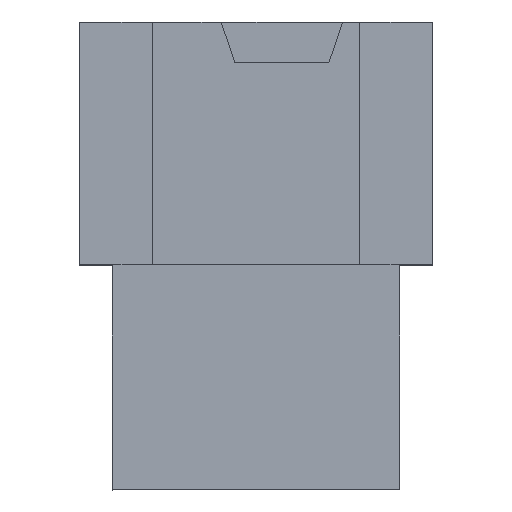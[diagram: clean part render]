
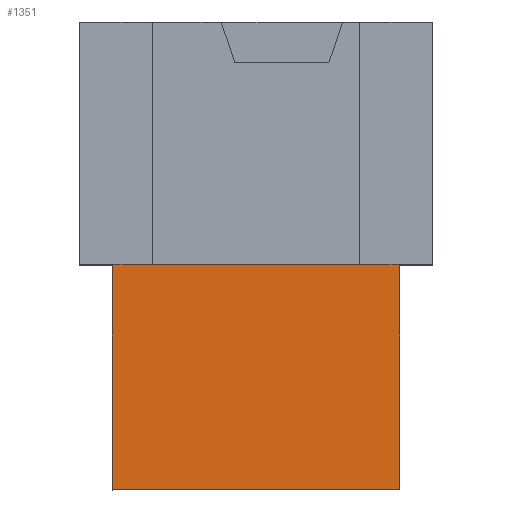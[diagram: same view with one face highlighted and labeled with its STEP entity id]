
A CAD part, top view. The second image highlights one B-rep face of the part: STEP entity #1351.
In plain terms, the highlighted planar face has unit normal (0, 0, 1).
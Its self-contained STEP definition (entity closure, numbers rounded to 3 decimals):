
#1338=AXIS2_PLACEMENT_3D('Plane Axis2P3D',#1335,#1336,#1337) ;
#566=CARTESIAN_POINT('Vertex',(10.55,-1.8,7.5)) ;
#580=CARTESIAN_POINT('Vertex',(-10.55,-1.8,7.5)) ;
#583=CARTESIAN_POINT('Line Origine',(0.,-1.8,7.5)) ;
#1261=CARTESIAN_POINT('Line Origine',(10.55,-10.05,7.5)) ;
#1265=CARTESIAN_POINT('Vertex',(10.55,-18.3,7.5)) ;
#1320=CARTESIAN_POINT('Vertex',(-10.55,-18.3,7.5)) ;
#1323=CARTESIAN_POINT('Line Origine',(-10.55,-10.05,7.5)) ;
#1335=CARTESIAN_POINT('Axis2P3D Location',(10.972,-1.471,7.5)) ;
#1340=CARTESIAN_POINT('Line Origine',(0.,-18.3,7.5)) ;
#584=DIRECTION('Vector Direction',(-1.,0.,0.)) ;
#1262=DIRECTION('Vector Direction',(0.,-1.,0.)) ;
#1324=DIRECTION('Vector Direction',(0.,-1.,0.)) ;
#1336=DIRECTION('Axis2P3D Direction',(0.,0.,1.)) ;
#1337=DIRECTION('Axis2P3D XDirection',(-1.,0.,0.)) ;
#1341=DIRECTION('Vector Direction',(1.,0.,0.)) ;
#585=VECTOR('Line Direction',#584,1.) ;
#1263=VECTOR('Line Direction',#1262,1.) ;
#1325=VECTOR('Line Direction',#1324,1.) ;
#1342=VECTOR('Line Direction',#1341,1.) ;
#1346=ORIENTED_EDGE('',*,*,#1327,.T.) ;
#1347=ORIENTED_EDGE('',*,*,#1344,.F.) ;
#1348=ORIENTED_EDGE('',*,*,#1267,.F.) ;
#1349=ORIENTED_EDGE('',*,*,#587,.T.) ;
#1351=ADVANCED_FACE('R3',(#1350),#1339,.T.) ;
#587=EDGE_CURVE('',#567,#581,#586,.T.) ;
#1267=EDGE_CURVE('',#567,#1266,#1264,.T.) ;
#1327=EDGE_CURVE('',#581,#1321,#1326,.T.) ;
#1344=EDGE_CURVE('',#1266,#1321,#1343,.F.) ;
#1345=EDGE_LOOP('',(#1346,#1347,#1348,#1349)) ;
#1350=FACE_OUTER_BOUND('',#1345,.T.) ;
#586=LINE('Line',#583,#585) ;
#1264=LINE('Line',#1261,#1263) ;
#1326=LINE('Line',#1323,#1325) ;
#1343=LINE('Line',#1340,#1342) ;
#1339=PLANE('',#1338) ;
#567=VERTEX_POINT('',#566) ;
#581=VERTEX_POINT('',#580) ;
#1266=VERTEX_POINT('',#1265) ;
#1321=VERTEX_POINT('',#1320) ;
